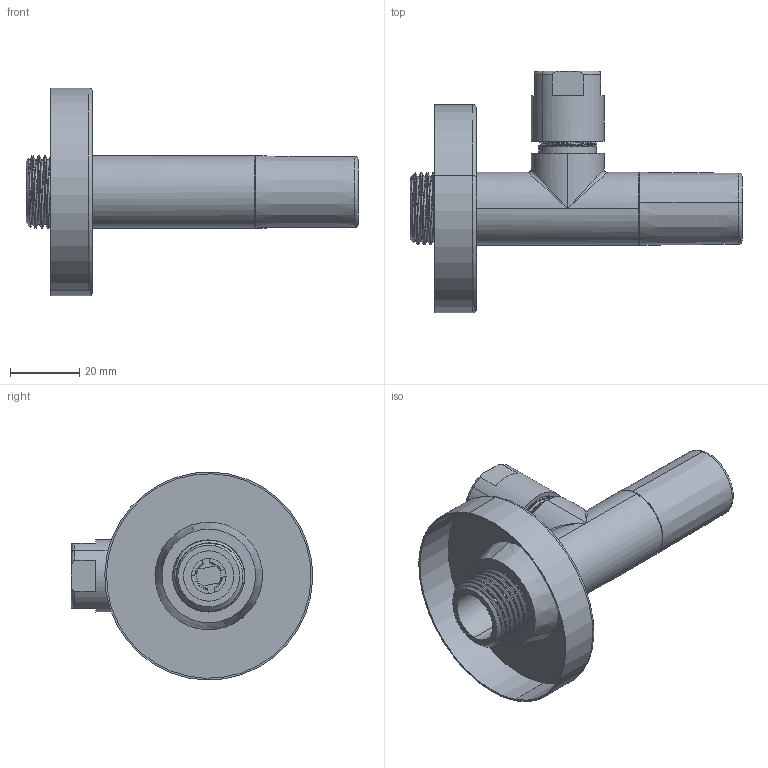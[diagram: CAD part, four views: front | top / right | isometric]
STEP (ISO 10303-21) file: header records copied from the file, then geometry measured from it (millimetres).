
FILE_DESCRIPTION (( 'STEP AP203' ), '1' );
FILE_NAME ('RSL1.STEP', '2023-02-17T13:48:26', ( '' ), ( '' ), 'SwSTEP 2.0', 'SolidWorks 2021', '' );
FILE_SCHEMA (( 'CONFIG_CONTROL_DESIGN' ));
Length unit declared in the file: millimetre
Products named in the file (7): 77171002.STEP; RSL1; 69462100.STEP; 70952101CC - PER SCHEDA TECNICA.STEP; 4761250C.STEP; 1946050G_1946050C.STEP; 7046250_7046250C.STEP
Assembly tree (6 placements, depth 3):
  RSL1
    70952101CC - PER SCHEDA TECNICA.STEP
      7046250_7046250C.STEP
      77171002.STEP
      1946050G_1946050C.STEP
      69462100.STEP
      4761250C.STEP
Bounding box: 95.75 x 69.64 x 59.98 mm (x, y, z)
Volume: 26270.2 mm3; surface area: 29632 mm2
Topology: 7 solids, 7 shells, 268 faces, 682 edges, 434 vertices
Faces by surface type: cylinder 107, plane 78, cone 46, torus 23, bspline 14
Entity records: 29357 total; most frequent: CARTESIAN_POINT 22428, ORIENTED_EDGE 1356, DIRECTION 1270, EDGE_CURVE 678, AXIS2_PLACEMENT_3D 512, VERTEX_POINT 434, EDGE_LOOP 290, ADVANCED_FACE 268
